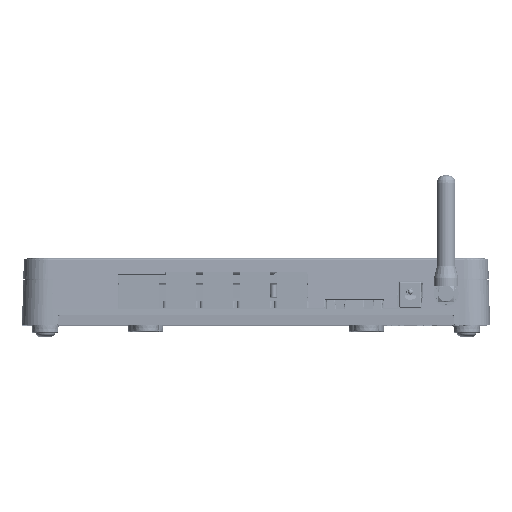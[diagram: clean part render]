
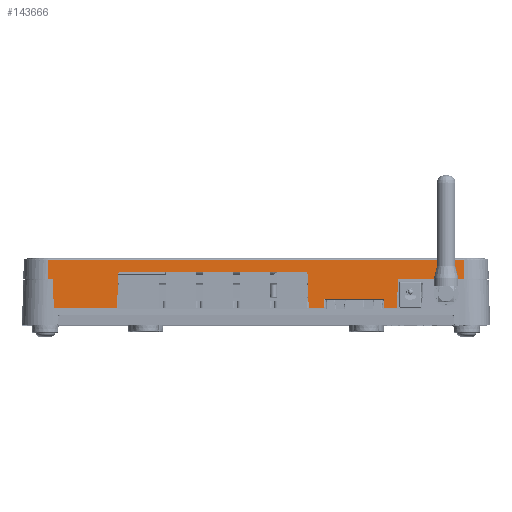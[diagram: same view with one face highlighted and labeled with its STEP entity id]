
A CAD part, top view. The second image highlights one B-rep face of the part: STEP entity #143666.
In plain terms, the highlighted planar face has unit normal (0, 0.035, 0.999).
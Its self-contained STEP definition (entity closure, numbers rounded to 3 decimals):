
#4722=ELLIPSE('',#153554,1.001,1.);
#4723=ELLIPSE('',#153555,1.001,1.);
#13384=FACE_OUTER_BOUND('',#21367,.T.);
#21367=EDGE_LOOP('',(#114622,#114623,#114624,#114625,#114626,#114627,#114628,
#114629,#114630,#114631,#114632,#114633,#114634,#114635,#114636,#114637,
#114638,#114639,#114640,#114641,#114642));
#32825=LINE('',#229530,#48705);
#32830=LINE('',#229540,#48710);
#32831=LINE('',#229545,#48711);
#32832=LINE('',#229547,#48712);
#32833=LINE('',#229549,#48713);
#32834=LINE('',#229551,#48714);
#32835=LINE('',#229553,#48715);
#32836=LINE('',#229555,#48716);
#32837=LINE('',#229557,#48717);
#32838=LINE('',#229559,#48718);
#32839=LINE('',#229561,#48719);
#32840=LINE('',#229563,#48720);
#32841=LINE('',#229564,#48721);
#32842=LINE('',#229566,#48722);
#32843=LINE('',#229568,#48723);
#32844=LINE('',#229570,#48724);
#32845=LINE('',#229572,#48725);
#32846=LINE('',#229574,#48726);
#32847=LINE('',#229578,#48727);
#48705=VECTOR('',#177756,169.299);
#48710=VECTOR('',#177765,7.727);
#48711=VECTOR('',#177770,13.983);
#48712=VECTOR('',#177771,6.196);
#48713=VECTOR('',#177772,3.946);
#48714=VECTOR('',#177773,24.417);
#48715=VECTOR('',#177774,3.946);
#48716=VECTOR('',#177775,5.061);
#48717=VECTOR('',#177776,0.875);
#48718=VECTOR('',#177777,10.381);
#48719=VECTOR('',#177778,0.091);
#48720=VECTOR('',#177779,0.891);
#48721=VECTOR('',#177780,26.938);
#48722=VECTOR('',#177781,7.727);
#48723=VECTOR('',#177782,2.211);
#48724=VECTOR('',#177783,12.14);
#48725=VECTOR('',#177784,25.837);
#48726=VECTOR('',#177785,13.983);
#48727=VECTOR('',#177788,75.186);
#64231=VERTEX_POINT('',#229378);
#64246=VERTEX_POINT('',#229525);
#64249=VERTEX_POINT('',#229539);
#64250=VERTEX_POINT('',#229543);
#64251=VERTEX_POINT('',#229544);
#64252=VERTEX_POINT('',#229546);
#64253=VERTEX_POINT('',#229548);
#64254=VERTEX_POINT('',#229550);
#64255=VERTEX_POINT('',#229552);
#64256=VERTEX_POINT('',#229554);
#64257=VERTEX_POINT('',#229556);
#64258=VERTEX_POINT('',#229558);
#64259=VERTEX_POINT('',#229560);
#64260=VERTEX_POINT('',#229562);
#64261=VERTEX_POINT('',#229565);
#64262=VERTEX_POINT('',#229567);
#64263=VERTEX_POINT('',#229569);
#64264=VERTEX_POINT('',#229571);
#64265=VERTEX_POINT('',#229573);
#64266=VERTEX_POINT('',#229575);
#64267=VERTEX_POINT('',#229577);
#82090=EDGE_CURVE('',#64231,#64246,#32825,.T.);
#82095=EDGE_CURVE('',#64246,#64249,#32830,.T.);
#82097=EDGE_CURVE('',#64250,#64251,#32831,.T.);
#82098=EDGE_CURVE('',#64251,#64252,#32832,.T.);
#82099=EDGE_CURVE('',#64253,#64252,#32833,.T.);
#82100=EDGE_CURVE('',#64254,#64253,#32834,.T.);
#82101=EDGE_CURVE('',#64255,#64254,#32835,.T.);
#82102=EDGE_CURVE('',#64255,#64256,#32836,.T.);
#82103=EDGE_CURVE('',#64256,#64257,#32837,.T.);
#82104=EDGE_CURVE('',#64258,#64257,#32838,.T.);
#82105=EDGE_CURVE('',#64259,#64258,#32839,.T.);
#82106=EDGE_CURVE('',#64259,#64260,#32840,.T.);
#82107=EDGE_CURVE('',#64260,#64249,#32841,.T.);
#82108=EDGE_CURVE('',#64261,#64231,#32842,.T.);
#82109=EDGE_CURVE('',#64262,#64261,#32843,.T.);
#82110=EDGE_CURVE('',#64262,#64263,#32844,.F.);
#82111=EDGE_CURVE('',#64263,#64264,#32845,.T.);
#82112=EDGE_CURVE('',#64264,#64265,#32846,.T.);
#82113=EDGE_CURVE('',#64266,#64265,#4722,.T.);
#82114=EDGE_CURVE('',#64266,#64267,#32847,.T.);
#82115=EDGE_CURVE('',#64250,#64267,#4723,.T.);
#114622=ORIENTED_EDGE('',*,*,#82097,.T.);
#114623=ORIENTED_EDGE('',*,*,#82098,.T.);
#114624=ORIENTED_EDGE('',*,*,#82099,.F.);
#114625=ORIENTED_EDGE('',*,*,#82100,.F.);
#114626=ORIENTED_EDGE('',*,*,#82101,.F.);
#114627=ORIENTED_EDGE('',*,*,#82102,.T.);
#114628=ORIENTED_EDGE('',*,*,#82103,.T.);
#114629=ORIENTED_EDGE('',*,*,#82104,.F.);
#114630=ORIENTED_EDGE('',*,*,#82105,.F.);
#114631=ORIENTED_EDGE('',*,*,#82106,.T.);
#114632=ORIENTED_EDGE('',*,*,#82107,.T.);
#114633=ORIENTED_EDGE('',*,*,#82095,.F.);
#114634=ORIENTED_EDGE('',*,*,#82090,.F.);
#114635=ORIENTED_EDGE('',*,*,#82108,.F.);
#114636=ORIENTED_EDGE('',*,*,#82109,.F.);
#114637=ORIENTED_EDGE('',*,*,#82110,.T.);
#114638=ORIENTED_EDGE('',*,*,#82111,.T.);
#114639=ORIENTED_EDGE('',*,*,#82112,.T.);
#114640=ORIENTED_EDGE('',*,*,#82113,.F.);
#114641=ORIENTED_EDGE('',*,*,#82114,.T.);
#114642=ORIENTED_EDGE('',*,*,#82115,.F.);
#136746=PLANE('',#153553);
#143666=ADVANCED_FACE('',(#13384),#136746,.T.);
#153553=AXIS2_PLACEMENT_3D('',#229542,#177768,#177769);
#153554=AXIS2_PLACEMENT_3D('',#229576,#177786,#177787);
#153555=AXIS2_PLACEMENT_3D('',#229579,#177789,#177790);
#177756=DIRECTION('',(1.,0.,0.));
#177765=DIRECTION('',(0.035,-0.999,0.035));
#177768=DIRECTION('center_axis',(0.,0.035,0.999));
#177769=DIRECTION('ref_axis',(1.,0.,0.));
#177770=DIRECTION('',(0.035,-0.999,0.035));
#177771=DIRECTION('',(1.,0.,0.));
#177772=DIRECTION('',(-0.035,-0.999,0.035));
#177773=DIRECTION('',(-1.,0.,0.));
#177774=DIRECTION('',(-0.035,0.999,-0.035));
#177775=DIRECTION('',(1.,0.,0.));
#177776=DIRECTION('',(0.044,0.998,-0.035));
#177777=DIRECTION('',(-0.035,-0.999,0.035));
#177778=DIRECTION('',(-1.,0.,0.));
#177779=DIRECTION('',(0.044,0.998,-0.035));
#177780=DIRECTION('',(1.,0.,0.));
#177781=DIRECTION('',(0.035,0.999,-0.035));
#177782=DIRECTION('',(-1.,0.,0.));
#177783=DIRECTION('',(-0.017,0.999,-0.035));
#177784=DIRECTION('',(1.,0.,0.));
#177785=DIRECTION('',(0.035,0.999,-0.035));
#177786=DIRECTION('center_axis',(0.,0.035,0.999));
#177787=DIRECTION('ref_axis',(0.,0.999,-0.035));
#177788=DIRECTION('',(1.,0.,0.));
#177789=DIRECTION('center_axis',(0.,0.035,0.999));
#177790=DIRECTION('ref_axis',(0.,0.999,-0.035));
#229378=CARTESIAN_POINT('',(31.472,0.517,111.325));
#229525=CARTESIAN_POINT('',(200.771,0.517,111.325));
#229530=CARTESIAN_POINT('',(31.472,0.517,111.325));
#229539=CARTESIAN_POINT('',(201.041,-7.2,111.595));
#229540=CARTESIAN_POINT('',(200.771,0.517,111.325));
#229542=CARTESIAN_POINT('Origin',(207.534,-16.744,111.928));
#229543=CARTESIAN_POINT('',(137.135,-5.365,111.531));
#229544=CARTESIAN_POINT('',(137.623,-19.331,112.018));
#229545=CARTESIAN_POINT('',(137.135,-5.365,111.531));
#229546=CARTESIAN_POINT('',(143.819,-19.331,112.018));
#229547=CARTESIAN_POINT('',(137.623,-19.331,112.018));
#229548=CARTESIAN_POINT('',(143.957,-15.39,111.881));
#229549=CARTESIAN_POINT('',(143.957,-15.39,111.881));
#229550=CARTESIAN_POINT('',(168.374,-15.39,111.881));
#229551=CARTESIAN_POINT('',(168.374,-15.39,111.881));
#229552=CARTESIAN_POINT('',(168.512,-19.331,112.018));
#229553=CARTESIAN_POINT('',(168.512,-19.331,112.018));
#229554=CARTESIAN_POINT('',(173.572,-19.331,112.018));
#229555=CARTESIAN_POINT('',(168.512,-19.331,112.018));
#229556=CARTESIAN_POINT('',(173.611,-18.458,111.988));
#229557=CARTESIAN_POINT('',(173.572,-19.331,112.018));
#229558=CARTESIAN_POINT('',(173.973,-8.09,111.626));
#229559=CARTESIAN_POINT('',(173.973,-8.09,111.626));
#229560=CARTESIAN_POINT('',(174.063,-8.09,111.626));
#229561=CARTESIAN_POINT('',(174.063,-8.09,111.626));
#229562=CARTESIAN_POINT('',(174.102,-7.2,111.595));
#229563=CARTESIAN_POINT('',(174.063,-8.09,111.626));
#229564=CARTESIAN_POINT('',(174.102,-7.2,111.595));
#229565=CARTESIAN_POINT('',(31.202,-7.2,111.595));
#229566=CARTESIAN_POINT('',(31.202,-7.2,111.595));
#229567=CARTESIAN_POINT('',(33.413,-7.2,111.595));
#229568=CARTESIAN_POINT('',(33.413,-7.2,111.595));
#229569=CARTESIAN_POINT('',(33.625,-19.331,112.018));
#229570=CARTESIAN_POINT('',(33.625,-19.331,112.018));
#229571=CARTESIAN_POINT('',(59.462,-19.331,112.018));
#229572=CARTESIAN_POINT('',(33.625,-19.331,112.018));
#229573=CARTESIAN_POINT('',(59.95,-5.365,111.531));
#229574=CARTESIAN_POINT('',(59.462,-19.331,112.018));
#229575=CARTESIAN_POINT('',(60.949,-4.4,111.497));
#229576=CARTESIAN_POINT('Origin',(60.949,-5.4,111.532));
#229577=CARTESIAN_POINT('',(136.136,-4.4,111.497));
#229578=CARTESIAN_POINT('',(60.949,-4.4,111.497));
#229579=CARTESIAN_POINT('Origin',(136.136,-5.4,111.532));
